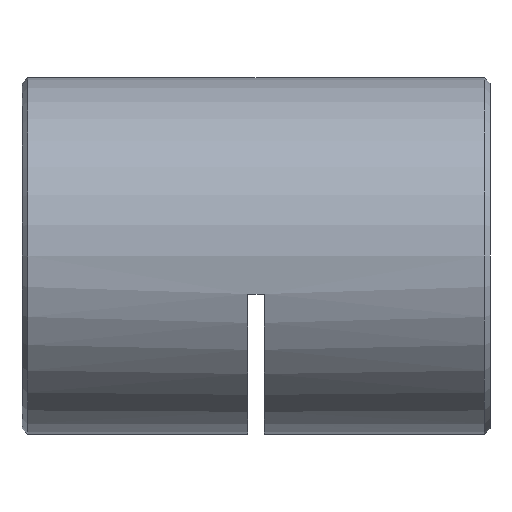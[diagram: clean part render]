
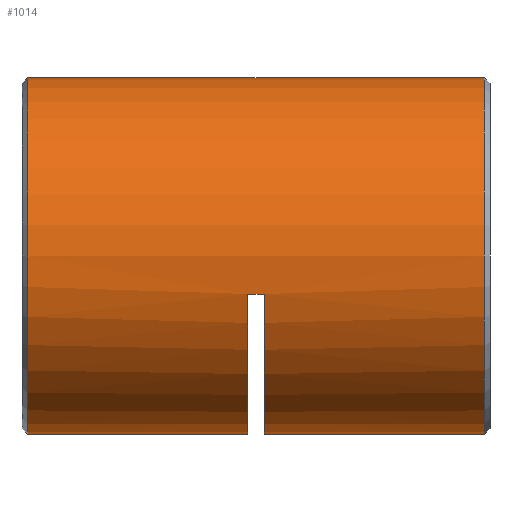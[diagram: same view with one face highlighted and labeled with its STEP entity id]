
A CAD part, left-side view. The second image highlights one B-rep face of the part: STEP entity #1014.
In plain terms, the highlighted cylindrical face has radius 16 mm (diameter 32 mm), a partial arc.
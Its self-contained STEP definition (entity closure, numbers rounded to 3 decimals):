
#194 = CARTESIAN_POINT ( 'NONE',  ( 0., 42.5, -16. ) ) ;
#255 = DIRECTION ( 'NONE',  ( 0., -1., 0. ) ) ;
#311 = DIRECTION ( 'NONE',  ( 0., -1., 0. ) ) ;
#328 = DIRECTION ( 'NONE',  ( 0., 0., -1. ) ) ;
#363 = ORIENTED_EDGE ( 'NONE', *, *, #4940, .F. ) ;
#411 = DIRECTION ( 'NONE',  ( 0., 0., -1. ) ) ;
#484 = DIRECTION ( 'NONE',  ( 0., 1., 0. ) ) ;
#637 = AXIS2_PLACEMENT_3D ( 'NONE', #745, #255, #6137 ) ;
#696 = CIRCLE ( 'NONE', #3878, 16. ) ;
#738 = VERTEX_POINT ( 'NONE', #3139 ) ;
#745 = CARTESIAN_POINT ( 'NONE',  ( 0., 22., 0. ) ) ;
#771 = AXIS2_PLACEMENT_3D ( 'NONE', #5248, #2768, #4274 ) ;
#877 = VERTEX_POINT ( 'NONE', #1564 ) ;
#935 = AXIS2_PLACEMENT_3D ( 'NONE', #3939, #484, #4363 ) ;
#1014 = ADVANCED_FACE ( 'NONE', ( #2271 ), #3165, .T. ) ;
#1091 = CARTESIAN_POINT ( 'NONE',  ( -15.632, 21.25, -3.413 ) ) ;
#1190 = LINE ( 'NONE', #194, #1492 ) ;
#1372 = LINE ( 'NONE', #1091, #6110 ) ;
#1422 = EDGE_CURVE ( 'NONE', #2717, #2511, #1190, .T. ) ;
#1466 = EDGE_CURVE ( 'NONE', #738, #3406, #3699, .T. ) ;
#1492 = VECTOR ( 'NONE', #3114, 1000. ) ;
#1493 = EDGE_CURVE ( 'NONE', #2035, #2511, #5854, .T. ) ;
#1564 = CARTESIAN_POINT ( 'NONE',  ( 0., 0.75, 16. ) ) ;
#1609 = LINE ( 'NONE', #2727, #4802 ) ;
#1799 = CARTESIAN_POINT ( 'NONE',  ( 0., 42.5, 0. ) ) ;
#1866 = ORIENTED_EDGE ( 'NONE', *, *, #4002, .T. ) ;
#2035 = VERTEX_POINT ( 'NONE', #3743 ) ;
#2072 = CIRCLE ( 'NONE', #771, 16. ) ;
#2270 = ORIENTED_EDGE ( 'NONE', *, *, #5524, .T. ) ;
#2271 = FACE_OUTER_BOUND ( 'NONE', #3504, .T. ) ;
#2391 = CARTESIAN_POINT ( 'NONE',  ( 0., 41.75, 16. ) ) ;
#2511 = VERTEX_POINT ( 'NONE', #4421 ) ;
#2540 = ORIENTED_EDGE ( 'NONE', *, *, #6191, .T. ) ;
#2717 = VERTEX_POINT ( 'NONE', #3342 ) ;
#2727 = CARTESIAN_POINT ( 'NONE',  ( 0., 42.5, 16. ) ) ;
#2768 = DIRECTION ( 'NONE',  ( 0., -1., 0. ) ) ;
#2884 = CARTESIAN_POINT ( 'NONE',  ( 0., 20.5, 0. ) ) ;
#3028 = VERTEX_POINT ( 'NONE', #5385 ) ;
#3114 = DIRECTION ( 'NONE',  ( 0., -1., 0. ) ) ;
#3138 = ORIENTED_EDGE ( 'NONE', *, *, #1493, .F. ) ;
#3139 = CARTESIAN_POINT ( 'NONE',  ( 0., 20.5, -16. ) ) ;
#3165 = CYLINDRICAL_SURFACE ( 'NONE', #4254, 16. ) ;
#3185 = ORIENTED_EDGE ( 'NONE', *, *, #1466, .T. ) ;
#3221 = CIRCLE ( 'NONE', #935, 16. ) ;
#3342 = CARTESIAN_POINT ( 'NONE',  ( 0., 41.75, -16. ) ) ;
#3344 = VERTEX_POINT ( 'NONE', #2391 ) ;
#3406 = VERTEX_POINT ( 'NONE', #4920 ) ;
#3504 = EDGE_LOOP ( 'NONE', ( #363, #2270, #5582, #3138, #2540, #1866, #3185, #3854 ) ) ;
#3529 = EDGE_CURVE ( 'NONE', #3406, #877, #3221, .T. ) ;
#3606 = CARTESIAN_POINT ( 'NONE',  ( 0., 42.5, -16. ) ) ;
#3699 = LINE ( 'NONE', #3606, #5553 ) ;
#3743 = CARTESIAN_POINT ( 'NONE',  ( -15.632, 22., -3.413 ) ) ;
#3854 = ORIENTED_EDGE ( 'NONE', *, *, #3529, .T. ) ;
#3878 = AXIS2_PLACEMENT_3D ( 'NONE', #2884, #5839, #411 ) ;
#3939 = CARTESIAN_POINT ( 'NONE',  ( 0., 0.75, 0. ) ) ;
#4002 = EDGE_CURVE ( 'NONE', #3028, #738, #696, .T. ) ;
#4185 = DIRECTION ( 'NONE',  ( 0., -1., 0. ) ) ;
#4254 = AXIS2_PLACEMENT_3D ( 'NONE', #1799, #4185, #328 ) ;
#4274 = DIRECTION ( 'NONE',  ( 0., 0., -1. ) ) ;
#4363 = DIRECTION ( 'NONE',  ( 0., 0., 1. ) ) ;
#4421 = CARTESIAN_POINT ( 'NONE',  ( 0., 22., -16. ) ) ;
#4802 = VECTOR ( 'NONE', #311, 1000. ) ;
#4920 = CARTESIAN_POINT ( 'NONE',  ( 0., 0.75, -16. ) ) ;
#4940 = EDGE_CURVE ( 'NONE', #3344, #877, #1609, .T. ) ;
#4989 = DIRECTION ( 'NONE',  ( 0., -1., 0. ) ) ;
#5103 = DIRECTION ( 'NONE',  ( 0., -1., 0. ) ) ;
#5248 = CARTESIAN_POINT ( 'NONE',  ( 0., 41.75, 0. ) ) ;
#5385 = CARTESIAN_POINT ( 'NONE',  ( -15.632, 20.5, -3.413 ) ) ;
#5524 = EDGE_CURVE ( 'NONE', #3344, #2717, #2072, .T. ) ;
#5553 = VECTOR ( 'NONE', #5103, 1000. ) ;
#5582 = ORIENTED_EDGE ( 'NONE', *, *, #1422, .T. ) ;
#5839 = DIRECTION ( 'NONE',  ( 0., -1., 0. ) ) ;
#5854 = CIRCLE ( 'NONE', #637, 16. ) ;
#6110 = VECTOR ( 'NONE', #4989, 1000. ) ;
#6137 = DIRECTION ( 'NONE',  ( 0., 0., -1. ) ) ;
#6191 = EDGE_CURVE ( 'NONE', #2035, #3028, #1372, .T. ) ;
